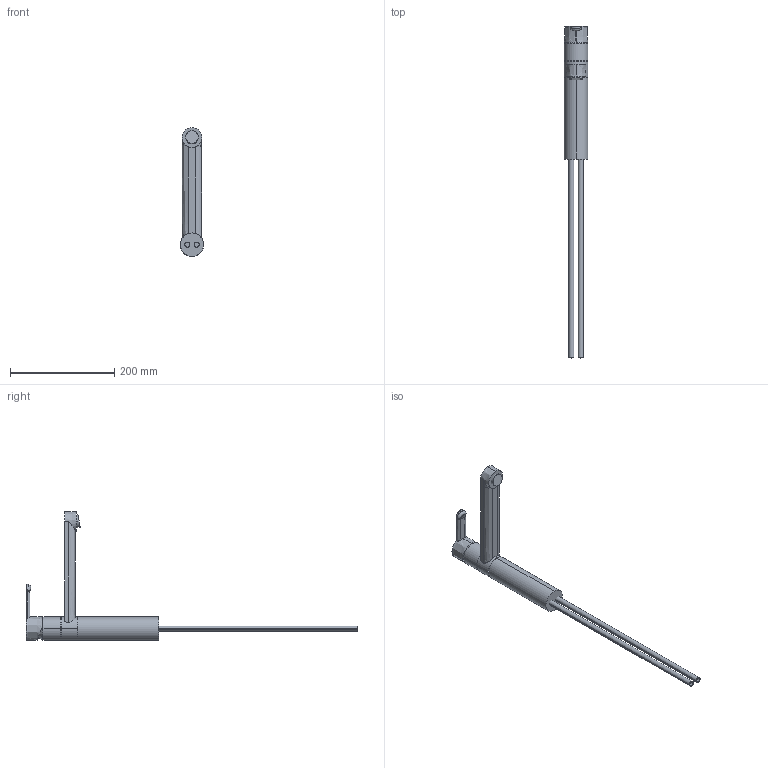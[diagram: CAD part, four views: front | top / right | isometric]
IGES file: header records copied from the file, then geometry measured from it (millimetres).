
Start section:  PTC IGES file: 35000_web.igs
Global section: file name: 35000_web.igs; native system: Creo Parametric by PTC Inc.; preprocessor: 2018190; author: jaje1; organization: Unknown; date: 20190118.150411; units: millimetre
Bounding box: 45 x 638.1 x 247.55 mm (x, y, z)
Surface area: 122756.2 mm2 (no closed solid volume)
Topology: 0 solids, 0 shells, 43 faces, 288 edges, 344 vertices
Faces by surface type: revolution 30, bspline 13
